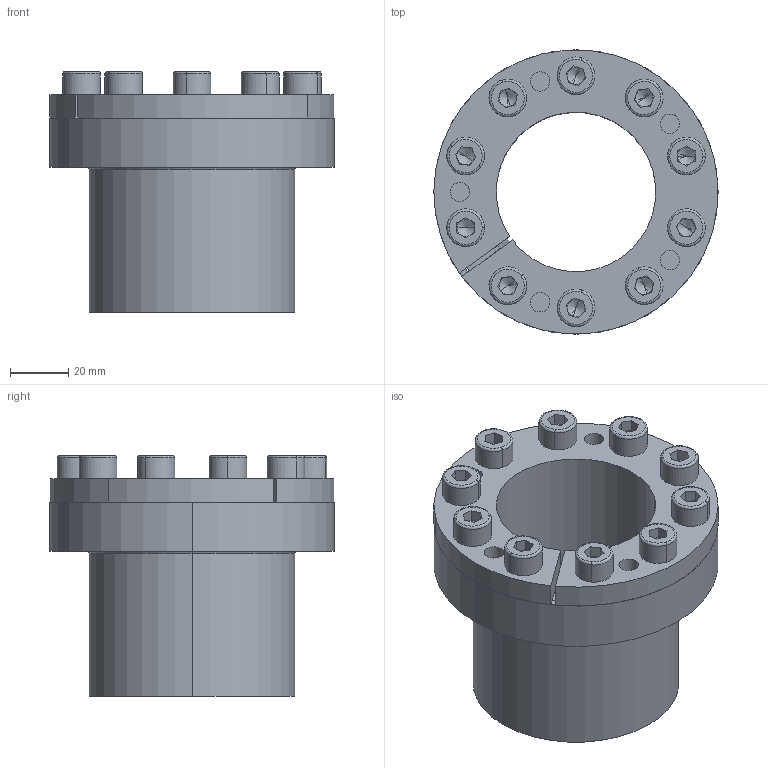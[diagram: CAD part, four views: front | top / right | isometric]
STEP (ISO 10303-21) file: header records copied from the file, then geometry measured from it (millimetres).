
FILE_DESCRIPTION (( 'STEP AP214' ), '1' );
FILE_NAME ('CONEX-B-55x71.step', '2013-04-04T12:42:09', ( 'Pc' ), ( '' ), 'SwSTEP 2.0', 'SolidWorks 2013', '' );
FILE_SCHEMA (( 'AUTOMOTIVE_DESIGN' ));
Length unit declared in the file: millimetre
Products named in the file (1): CONEX-B-55x71
Bounding box: 98 x 98 x 83.01 mm (x, y, z)
Volume: 193907.5 mm3; surface area: 97084.7 mm2
Topology: 13 solids, 13 shells, 360 faces, 828 edges, 494 vertices
Faces by surface type: plane 162, cylinder 106, torus 46, cone 46
Entity records: 14258 total; most frequent: DIRECTION 1916, CARTESIAN_POINT 1717, ORIENTED_EDGE 1616, EDGE_CURVE 808, AXIS2_PLACEMENT_3D 755, VERTEX_POINT 494, EDGE_LOOP 432, VECTOR 406
